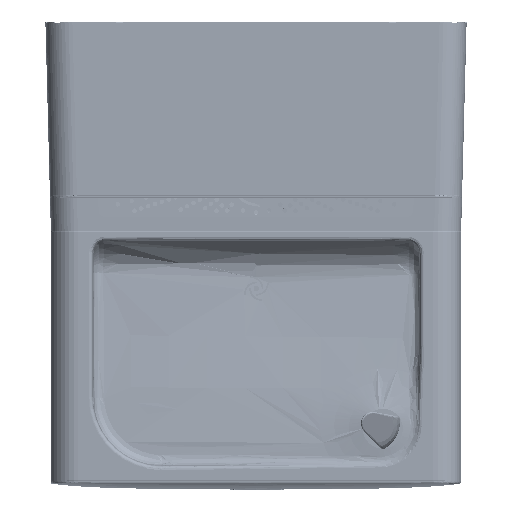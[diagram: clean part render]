
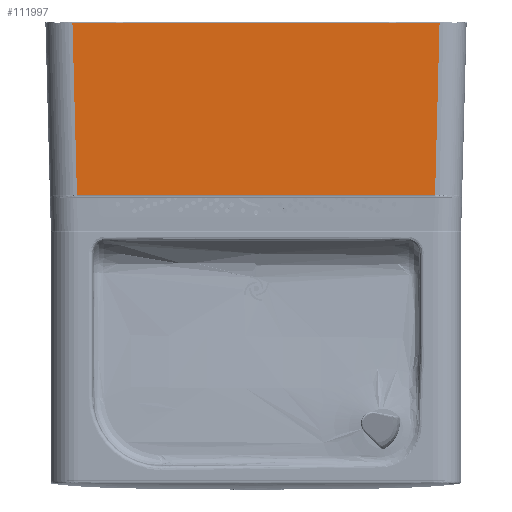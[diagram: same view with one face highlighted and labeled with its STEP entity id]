
A CAD part, top view. The second image highlights one B-rep face of the part: STEP entity #111997.
In plain terms, the highlighted planar face has unit normal (0, 0, 1).
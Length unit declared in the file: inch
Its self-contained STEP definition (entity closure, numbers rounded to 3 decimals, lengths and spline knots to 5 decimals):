
#1596 = LINE ( 'NONE', #253038, #606628 ) ;
#91208 = DIRECTION ( 'NONE',  ( 1., 0., 0. ) ) ;
#111997 = ADVANCED_FACE ( 'NONE', ( #346808 ), #669320, .T. ) ;
#122017 = VECTOR ( 'NONE', #396833, 39.37008 ) ;
#139959 = VECTOR ( 'NONE', #425762, 39.37008 ) ;
#141215 = LINE ( 'NONE', #585441, #122017 ) ;
#154045 = CARTESIAN_POINT ( 'NONE',  ( -9.2133, 9.56693, 39.30315 ) ) ;
#170176 = CARTESIAN_POINT ( 'NONE',  ( -8.03056, 9.51969, 39.30315 ) ) ;
#188885 = DIRECTION ( 'NONE',  ( 1., 0., 0. ) ) ;
#197805 = EDGE_CURVE ( 'NONE', #692099, #640389, #626731, .T. ) ;
#203606 = CARTESIAN_POINT ( 'NONE',  ( 7.83334, 1.98819, 39.30315 ) ) ;
#204111 = ORIENTED_EDGE ( 'NONE', *, *, #760280, .F. ) ;
#250370 = CARTESIAN_POINT ( 'NONE',  ( 8.03056, 9.51969, 39.30315 ) ) ;
#253038 = CARTESIAN_POINT ( 'NONE',  ( 8.03056, 9.51969, 39.30315 ) ) ;
#261319 = DIRECTION ( 'NONE',  ( -0.026, -1., 0. ) ) ;
#300031 = EDGE_LOOP ( 'NONE', ( #204111, #557890, #438819, #515974 ) ) ;
#346808 = FACE_OUTER_BOUND ( 'NONE', #300031, .T. ) ;
#367444 = EDGE_CURVE ( 'NONE', #692099, #811249, #141215, .T. ) ;
#388165 = AXIS2_PLACEMENT_3D ( 'NONE', #154045, #476647, #91208 ) ;
#396833 = DIRECTION ( 'NONE',  ( 0.026, -1., 0. ) ) ;
#425762 = DIRECTION ( 'NONE',  ( 1., 0., 0. ) ) ;
#438819 = ORIENTED_EDGE ( 'NONE', *, *, #367444, .T. ) ;
#476647 = DIRECTION ( 'NONE',  ( 0., 0., 1. ) ) ;
#509961 = VECTOR ( 'NONE', #188885, 39.37008 ) ;
#515974 = ORIENTED_EDGE ( 'NONE', *, *, #734218, .T. ) ;
#557890 = ORIENTED_EDGE ( 'NONE', *, *, #197805, .F. ) ;
#585441 = CARTESIAN_POINT ( 'NONE',  ( -8.03056, 9.51969, 39.30315 ) ) ;
#606628 = VECTOR ( 'NONE', #261319, 39.37008 ) ;
#621329 = CARTESIAN_POINT ( 'NONE',  ( -7.83334, 1.98819, 39.30315 ) ) ;
#626731 = LINE ( 'NONE', #170176, #139959 ) ;
#628945 = LINE ( 'NONE', #754686, #509961 ) ;
#640389 = VERTEX_POINT ( 'NONE', #250370 ) ;
#653477 = VERTEX_POINT ( 'NONE', #203606 ) ;
#669320 = PLANE ( 'NONE',  #388165 ) ;
#692099 = VERTEX_POINT ( 'NONE', #716809 ) ;
#716809 = CARTESIAN_POINT ( 'NONE',  ( -8.03056, 9.51969, 39.30315 ) ) ;
#734218 = EDGE_CURVE ( 'NONE', #811249, #653477, #628945, .T. ) ;
#754686 = CARTESIAN_POINT ( 'NONE',  ( -7.83334, 1.98819, 39.30315 ) ) ;
#760280 = EDGE_CURVE ( 'NONE', #640389, #653477, #1596, .T. ) ;
#811249 = VERTEX_POINT ( 'NONE', #621329 ) ;
